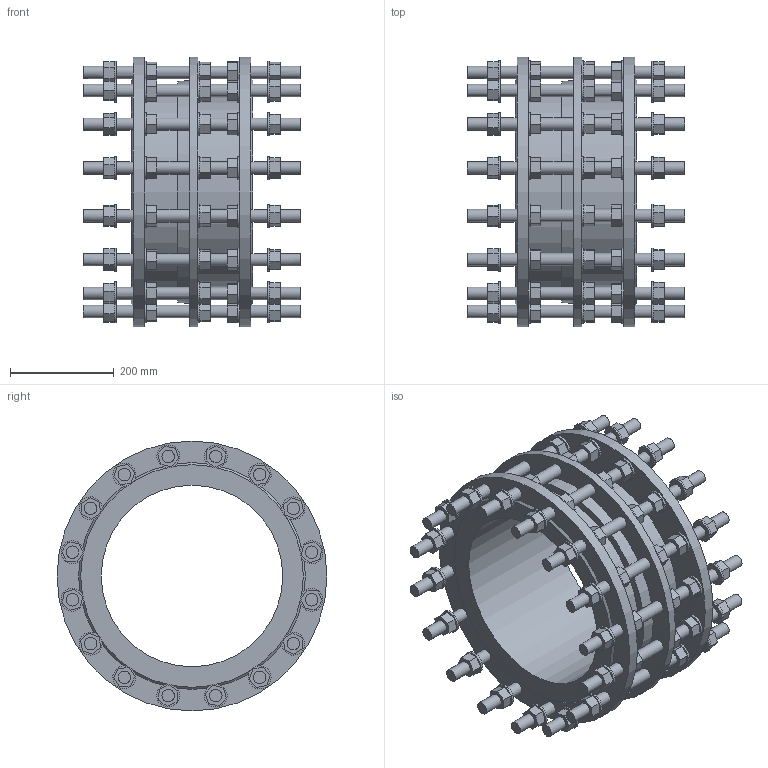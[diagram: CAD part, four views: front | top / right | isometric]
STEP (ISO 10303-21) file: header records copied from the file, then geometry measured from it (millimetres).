
FILE_DESCRIPTION (( 'STEP AP203' ), '1' );
FILE_NAME ('O_265_910_DN350_1XXXXX00_L=235_REV01.step', '2024-10-11T09:11:34', ( '' ), ( '' ), 'SwSTEP 2.0', 'SolidWorks 2022', '' );
FILE_SCHEMA (( 'CONFIG_CONTROL_DESIGN' ));
Length unit declared in the file: millimetre
Products named in the file (1): O_265_910_DN350_1XXXXX00_L=235_REV01
Bounding box: 420 x 520 x 520 mm (x, y, z)
Volume: 14808807.1 mm3; surface area: 1760070.7 mm2
Topology: 1 solids, 1 shells, 939 faces, 2201 edges, 1499 vertices
Faces by surface type: plane 752, cylinder 184, cone 3
Full cylindrical faces by diameter (mm): 24 x96, 44 x80, 350 x1, 366 x1, 396 x1, 520 x3
Entity records: 25198 total; most frequent: CARTESIAN_POINT 4265, DIRECTION 4175, ORIENTED_EDGE 3842, EDGE_CURVE 1921, LINE 1547, VECTOR 1547, EDGE_LOOP 1425, VERTEX_POINT 1404
